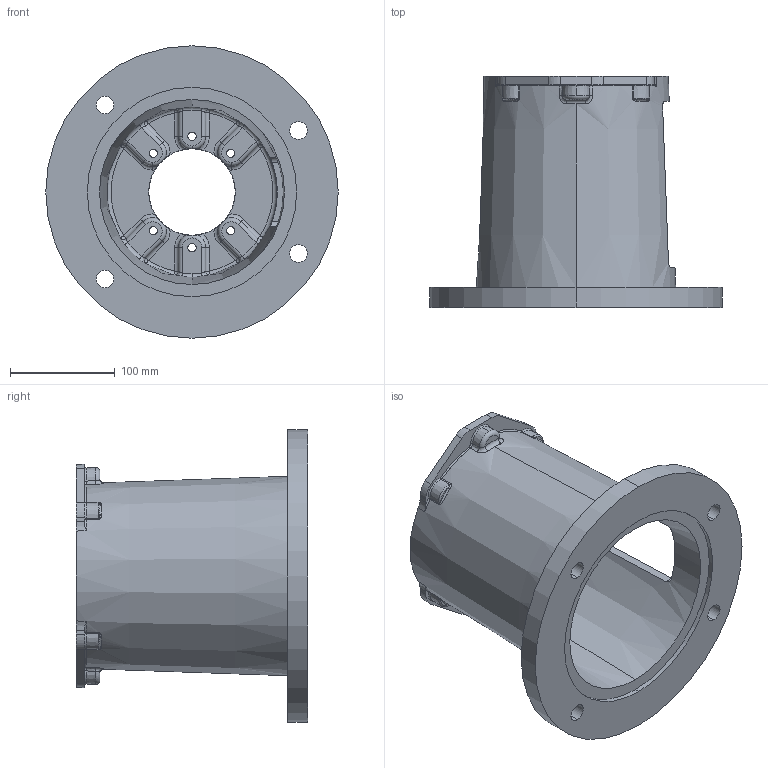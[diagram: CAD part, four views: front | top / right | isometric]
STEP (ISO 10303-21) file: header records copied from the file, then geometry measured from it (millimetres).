
FILE_DESCRIPTION (( 'STEP AP203' ), '1' );
FILE_NAME ('E787862A.STEP', '2014-11-04T15:51:20', ( '' ), ( '' ), 'SwSTEP 2.0', 'SolidWorks 2014', '' );
FILE_SCHEMA (( 'CONFIG_CONTROL_DESIGN' ));
Length unit declared in the file: inch
Products named in the file (1): E787862A
Bounding box: 279.4 x 220.73 x 279.4 mm (x, y, z)
Volume: 1646899.8 mm3; surface area: 352733.7 mm2
Topology: 1 solids, 1 shells, 355 faces, 902 edges, 539 vertices
Faces by surface type: torus 107, cylinder 86, bspline 64, plane 50, sphere 24, cone 24
Entity records: 14209 total; most frequent: CARTESIAN_POINT 5939, ORIENTED_EDGE 1780, DIRECTION 1744, EDGE_CURVE 890, AXIS2_PLACEMENT_3D 792, VERTEX_POINT 539, CIRCLE 500, EDGE_LOOP 381
